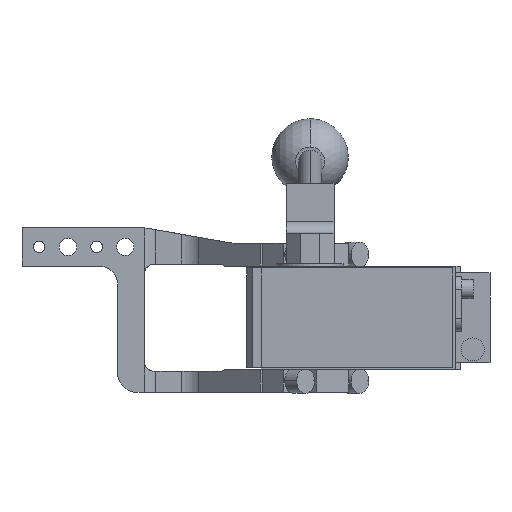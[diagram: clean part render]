
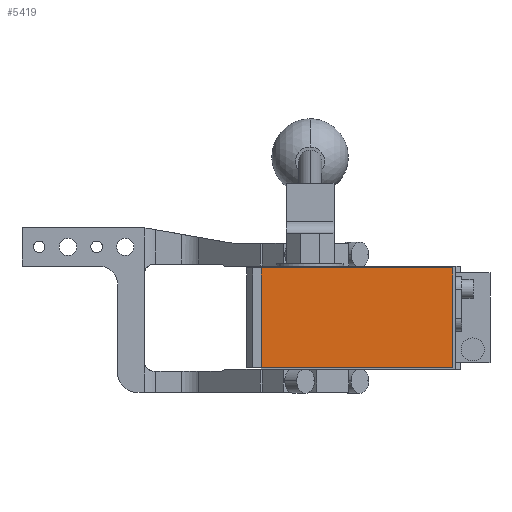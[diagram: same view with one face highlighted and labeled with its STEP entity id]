
A CAD part, front view. The second image highlights one B-rep face of the part: STEP entity #5419.
In plain terms, the highlighted planar face has unit normal (0, -1, 0).
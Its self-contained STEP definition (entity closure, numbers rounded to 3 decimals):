
#729 = VERTEX_POINT ( 'NONE', #14820 ) ;
#776 = DIRECTION ( 'NONE',  ( 0., 0., -1. ) ) ;
#1658 = EDGE_CURVE ( 'NONE', #5282, #729, #2011, .T. ) ;
#2011 = LINE ( 'NONE', #6698, #12199 ) ;
#2602 = ORIENTED_EDGE ( 'NONE', *, *, #1658, .T. ) ;
#2935 = FACE_OUTER_BOUND ( 'NONE', #10184, .T. ) ;
#2986 = LINE ( 'NONE', #14391, #4790 ) ;
#4227 = PLANE ( 'NONE',  #10382 ) ;
#4694 = LINE ( 'NONE', #6142, #10880 ) ;
#4790 = VECTOR ( 'NONE', #6586, 1000. ) ;
#5198 = VECTOR ( 'NONE', #14050, 1000. ) ;
#5282 = VERTEX_POINT ( 'NONE', #7582 ) ;
#5419 = ADVANCED_FACE ( 'NONE', ( #2935 ), #4227, .T. ) ;
#5957 = EDGE_CURVE ( 'NONE', #729, #14512, #4694, .T. ) ;
#6142 = CARTESIAN_POINT ( 'NONE',  ( 81., -286.5, 26. ) ) ;
#6245 = VERTEX_POINT ( 'NONE', #7944 ) ;
#6517 = ORIENTED_EDGE ( 'NONE', *, *, #12038, .T. ) ;
#6586 = DIRECTION ( 'NONE',  ( -1., 0., 0. ) ) ;
#6698 = CARTESIAN_POINT ( 'NONE',  ( -19., -286.5, -26. ) ) ;
#7582 = CARTESIAN_POINT ( 'NONE',  ( -19., -286.5, -26. ) ) ;
#7738 = DIRECTION ( 'NONE',  ( 0., -1., 0. ) ) ;
#7944 = CARTESIAN_POINT ( 'NONE',  ( -19., -286.5, 26. ) ) ;
#8791 = ORIENTED_EDGE ( 'NONE', *, *, #5957, .T. ) ;
#8910 = CARTESIAN_POINT ( 'NONE',  ( 0., -286.5, 0. ) ) ;
#10184 = EDGE_LOOP ( 'NONE', ( #6517, #2602, #8791, #11203 ) ) ;
#10382 = AXIS2_PLACEMENT_3D ( 'NONE', #8910, #7738, #776 ) ;
#10880 = VECTOR ( 'NONE', #12770, 1000. ) ;
#11203 = ORIENTED_EDGE ( 'NONE', *, *, #13780, .T. ) ;
#12038 = EDGE_CURVE ( 'NONE', #6245, #5282, #14127, .T. ) ;
#12199 = VECTOR ( 'NONE', #13755, 1000. ) ;
#12770 = DIRECTION ( 'NONE',  ( 0., 0., 1. ) ) ;
#13226 = CARTESIAN_POINT ( 'NONE',  ( 81., -286.5, 26. ) ) ;
#13755 = DIRECTION ( 'NONE',  ( 1., 0., 0. ) ) ;
#13780 = EDGE_CURVE ( 'NONE', #14512, #6245, #2986, .T. ) ;
#14050 = DIRECTION ( 'NONE',  ( 0., 0., -1. ) ) ;
#14127 = LINE ( 'NONE', #14342, #5198 ) ;
#14342 = CARTESIAN_POINT ( 'NONE',  ( -19., -286.5, 26. ) ) ;
#14391 = CARTESIAN_POINT ( 'NONE',  ( -19., -286.5, 26. ) ) ;
#14512 = VERTEX_POINT ( 'NONE', #13226 ) ;
#14820 = CARTESIAN_POINT ( 'NONE',  ( 81., -286.5, -26. ) ) ;
